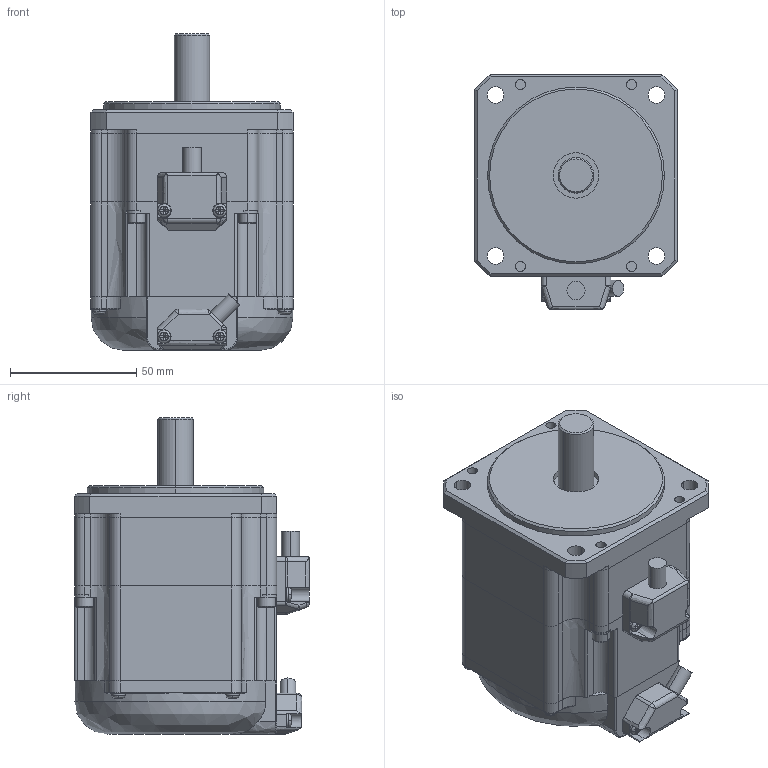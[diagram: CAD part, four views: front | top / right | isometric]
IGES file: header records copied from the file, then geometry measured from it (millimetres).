
Start section: Elysium IGES Interface
Global section: file name: 79H\\nas63\design\04MC研\saka\3DCAD\TBL-i2カタログまとめ\IGSデータ\TS4611_BK有.igs; native system: Creo Elements/Direct Modeling 17.0F  20-Aug-2012; preprocessor: Creo Element/Direct IGES_3D V2.2; author: Unknown; organization: Unknown; date: 20161222.163152; units: millimetre
Bounding box: 80 x 93 x 125.3 mm (x, y, z)
Volume: 542604.3 mm3; surface area: 44673.8 mm2
Topology: 1 solids, 1 shells, 658 faces, 1544 edges, 892 vertices
Faces by surface type: bspline 658
